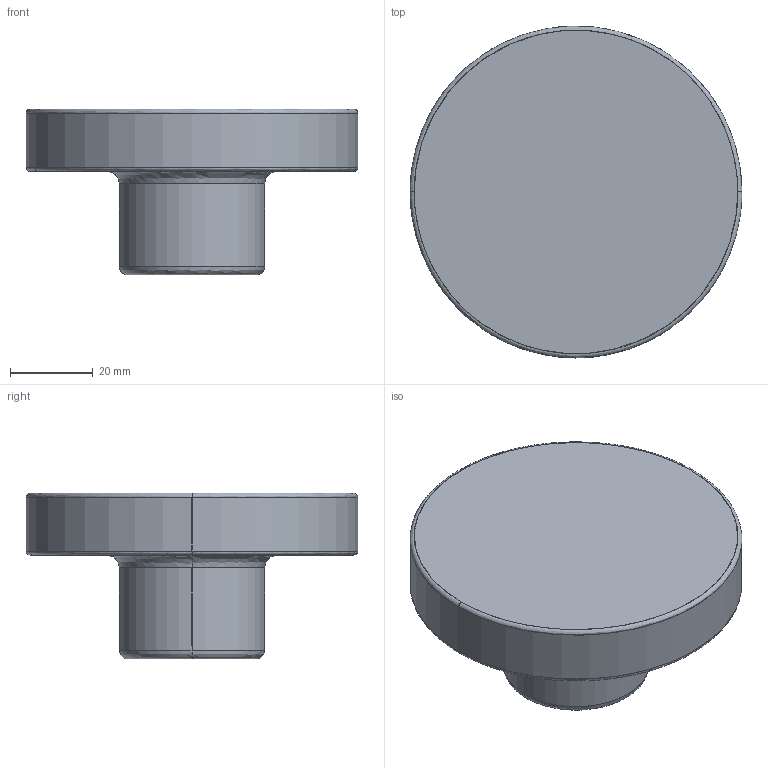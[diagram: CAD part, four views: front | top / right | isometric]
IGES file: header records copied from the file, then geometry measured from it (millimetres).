
Start section: SolidWorks IGES file using analytic representation for surfaces
Global section: file name: X:\11_SW2020-Inv2020\00_全2021-11新製品まで\a\AH80R\ah80r.IGS; native system: SolidWorks 2020; preprocessor: SolidWorks 2020; author: ImaoCorp; date: 211021.163047; units: millimetre
Bounding box: 80 x 80 x 40 mm (x, y, z)
Surface area: 17529 mm2 (no closed solid volume)
Topology: 0 solids, 0 shells, 18 faces, 376 edges, 376 vertices
Faces by surface type: bspline 12, revolution 6
